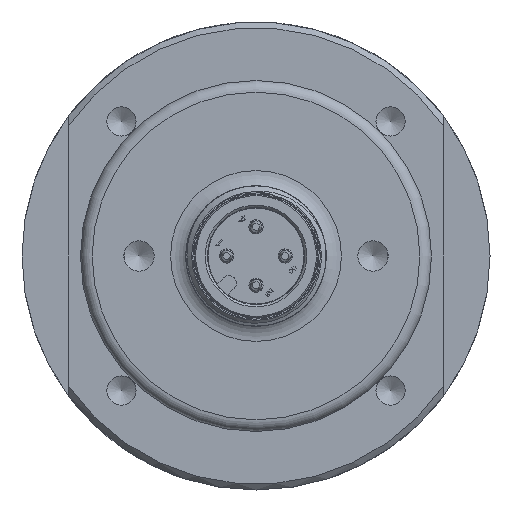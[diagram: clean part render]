
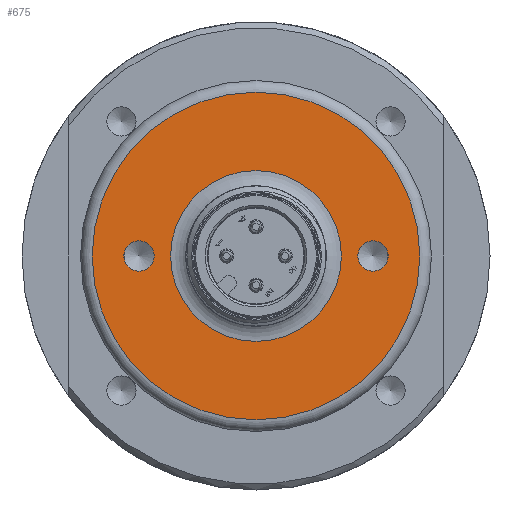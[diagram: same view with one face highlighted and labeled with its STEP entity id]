
A CAD part, front view. The second image highlights one B-rep face of the part: STEP entity #675.
In plain terms, the highlighted planar face has unit normal (0, -1, 0) as drawn and (0, 1, 0) by its records, which use the part's own axes.
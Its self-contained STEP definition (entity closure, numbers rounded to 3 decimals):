
#675 = ADVANCED_FACE( '', ( #1373, #1374, #1375, #1376 ), #1377, .T. );
#1373 = FACE_BOUND( '', #4807, .T. );
#1374 = FACE_OUTER_BOUND( '', #4808, .T. );
#1375 = FACE_BOUND( '', #4809, .T. );
#1376 = FACE_BOUND( '', #4810, .T. );
#1377 = PLANE( '', #4811 );
#4807 = EDGE_LOOP( '', ( #7457 ) );
#4808 = EDGE_LOOP( '', ( #7458 ) );
#4809 = EDGE_LOOP( '', ( #7459 ) );
#4810 = EDGE_LOOP( '', ( #7460 ) );
#4811 = AXIS2_PLACEMENT_3D( '', #7461, #7462, #7463 );
#7457 = ORIENTED_EDGE( '', *, *, #8844, .T. );
#7458 = ORIENTED_EDGE( '', *, *, #8845, .T. );
#7459 = ORIENTED_EDGE( '', *, *, #8797, .T. );
#7460 = ORIENTED_EDGE( '', *, *, #8611, .T. );
#7461 = CARTESIAN_POINT( '', ( -15., -2.104, 0. ) );
#7462 = DIRECTION( '', ( 0., 1., 0. ) );
#7463 = DIRECTION( '', ( -1., 0., 0. ) );
#8611 = EDGE_CURVE( '', #9365, #9365, #9366, .T. );
#8797 = EDGE_CURVE( '', #9657, #9657, #9658, .T. );
#8844 = EDGE_CURVE( '', #9721, #9721, #9722, .F. );
#8845 = EDGE_CURVE( '', #9723, #9723, #9724, .T. );
#9365 = VERTEX_POINT( '', #10642 );
#9366 = CIRCLE( '', #10643, 1.3 );
#9657 = VERTEX_POINT( '', #12633 );
#9658 = CIRCLE( '', #12634, 1.3 );
#9721 = VERTEX_POINT( '', #12986 );
#9722 = CIRCLE( '', #12987, 7.3 );
#9723 = VERTEX_POINT( '', #12988 );
#9724 = CIRCLE( '', #12989, 14. );
#10642 = CARTESIAN_POINT( '', ( -1.3, -2.104, 10. ) );
#10643 = AXIS2_PLACEMENT_3D( '', #14237, #14238, #14239 );
#12633 = CARTESIAN_POINT( '', ( -1.3, -2.104, -10. ) );
#12634 = AXIS2_PLACEMENT_3D( '', #14415, #14416, #14417 );
#12986 = CARTESIAN_POINT( '', ( -7.3, -2.104, 0. ) );
#12987 = AXIS2_PLACEMENT_3D( '', #14451, #14452, #14453 );
#12988 = CARTESIAN_POINT( '', ( -14., -2.104, 0. ) );
#12989 = AXIS2_PLACEMENT_3D( '', #14454, #14455, #14456 );
#14237 = CARTESIAN_POINT( '', ( 0., -2.104, 10. ) );
#14238 = DIRECTION( '', ( 0., -1., 0. ) );
#14239 = DIRECTION( '', ( -1., 0., 0. ) );
#14415 = CARTESIAN_POINT( '', ( 0., -2.104, -10. ) );
#14416 = DIRECTION( '', ( 0., -1., 0. ) );
#14417 = DIRECTION( '', ( -1., 0., 0. ) );
#14451 = CARTESIAN_POINT( '', ( 0., -2.104, 0. ) );
#14452 = DIRECTION( '', ( 0., 1., 0. ) );
#14453 = DIRECTION( '', ( -1., 0., 0. ) );
#14454 = CARTESIAN_POINT( '', ( 0., -2.104, 0. ) );
#14455 = DIRECTION( '', ( 0., 1., 0. ) );
#14456 = DIRECTION( '', ( -1., 0., 0. ) );
